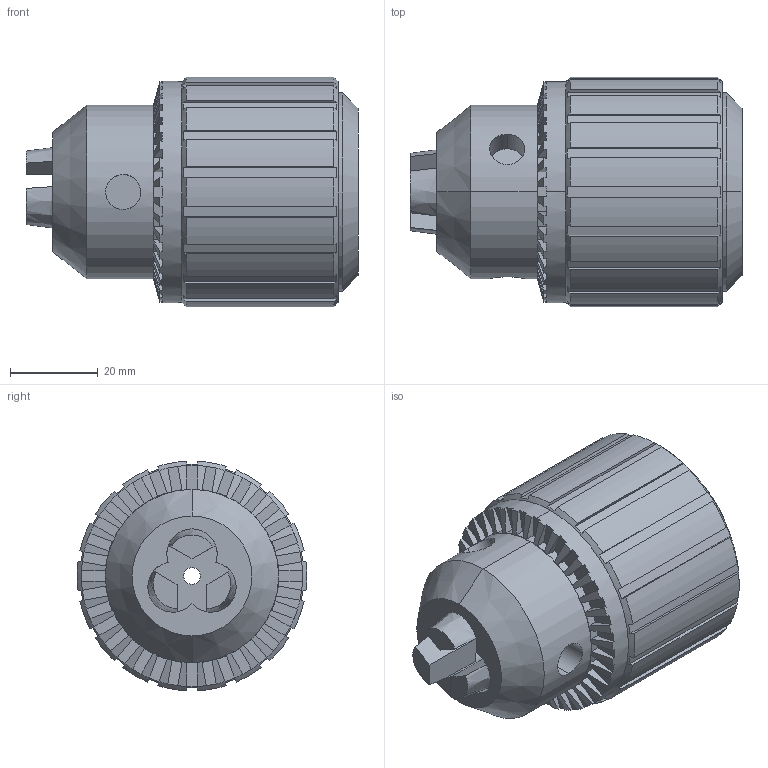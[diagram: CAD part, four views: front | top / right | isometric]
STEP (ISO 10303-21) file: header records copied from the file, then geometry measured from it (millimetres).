
FILE_DESCRIPTION (( 'STEP AP203' ), '1' );
FILE_NAME ('040J000107 Keychuck JT2 0-13 mm.STEP', '2009-09-03T13:19:15', ( 'HP' ), ( '' ), 'SwSTEP 2.0', 'SolidWorks 2008', '' );
FILE_SCHEMA (( 'CONFIG_CONTROL_DESIGN' ));
Length unit declared in the file: millimetre
Products named in the file (1): 040J000107 Keychuck JT2 0-13 mm
Bounding box: 75.7 x 52.35 x 52.34 mm (x, y, z)
Volume: 107990.1 mm3; surface area: 19490.2 mm2
Topology: 1 solids, 1 shells, 275 faces, 791 edges, 524 vertices
Faces by surface type: plane 218, cylinder 40, cone 14, bspline 3
Entity records: 9749 total; most frequent: CARTESIAN_POINT 2819, ORIENTED_EDGE 1582, DIRECTION 1242, EDGE_CURVE 791, VERTEX_POINT 524, AXIS2_PLACEMENT_3D 429, VECTOR 384, LINE 384
